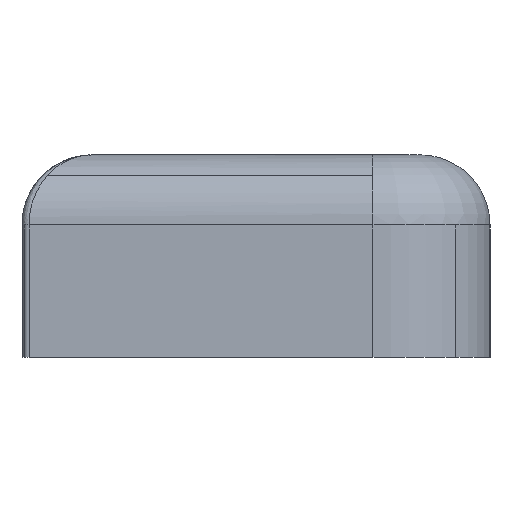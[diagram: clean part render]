
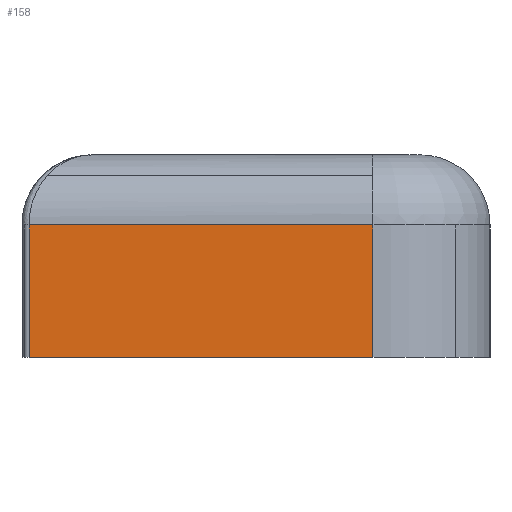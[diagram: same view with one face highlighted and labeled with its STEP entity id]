
A CAD part, left-side view. The second image highlights one B-rep face of the part: STEP entity #158.
In plain terms, the highlighted planar face has unit normal (-1, 0, 0).
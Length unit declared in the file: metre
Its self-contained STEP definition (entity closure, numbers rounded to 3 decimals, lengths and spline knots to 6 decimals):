
#158=ADVANCED_FACE('5:4451',(#364),#365,.T.);
#364=FACE_OUTER_BOUND('',#622,.T.);
#365=PLANE('',#623);
#622=EDGE_LOOP('',(#1368,#1369,#1370,#1371));
#623=AXIS2_PLACEMENT_3D('',#1372,#1373,#1374);
#1368=ORIENTED_EDGE('',*,*,#2004,.F.);
#1369=ORIENTED_EDGE('',*,*,#2005,.T.);
#1370=ORIENTED_EDGE('',*,*,#2001,.F.);
#1371=ORIENTED_EDGE('',*,*,#2006,.F.);
#1372=CARTESIAN_POINT('',(-0.2,-0.01,0.01));
#1373=DIRECTION('',(-1.0,0.0,0.0));
#1374=DIRECTION('',(0.0,1.0,0.0));
#2001=EDGE_CURVE('5:30453',#2376,#2378,#2379,.T.);
#2004=EDGE_CURVE('47:48807',#2382,#2383,#2384,.T.);
#2005=EDGE_CURVE('5:4490',#2382,#2378,#2385,.F.);
#2006=EDGE_CURVE('5:30450',#2383,#2376,#2386,.T.);
#2376=VERTEX_POINT('',#2835);
#2378=VERTEX_POINT('',#2837);
#2379=LINE('',#2838,#2839);
#2382=VERTEX_POINT('',#2842);
#2383=VERTEX_POINT('',#2843);
#2384=LINE('',#2844,#2845);
#2385=LINE('',#2846,#2847);
#2386=LINE('',#2848,#2849);
#2835=CARTESIAN_POINT('',(-0.2,-0.015,0.007));
#2837=CARTESIAN_POINT('',(-0.2,-0.015,0.00135));
#2838=CARTESIAN_POINT('',(-0.2,-0.015,0.01));
#2839=VECTOR('',#3281,1.0);
#2842=CARTESIAN_POINT('',(-0.2,-0.0003,0.00135));
#2843=CARTESIAN_POINT('',(-0.2,-0.0003,0.007));
#2844=CARTESIAN_POINT('',(-0.2,-0.0003,0.01));
#2845=VECTOR('',#3285,1.0);
#2846=CARTESIAN_POINT('',(-0.2,-0.015,0.00135));
#2847=VECTOR('',#3286,1.0);
#2848=CARTESIAN_POINT('',(-0.2,-0.015,0.007));
#2849=VECTOR('',#3287,1.0);
#3281=DIRECTION('',(0.0,0.0,-1.0));
#3285=DIRECTION('',(-0.0,-0.0,1.0));
#3286=DIRECTION('',(0.0,1.0,0.0));
#3287=DIRECTION('',(-0.0,-1.0,-0.0));
